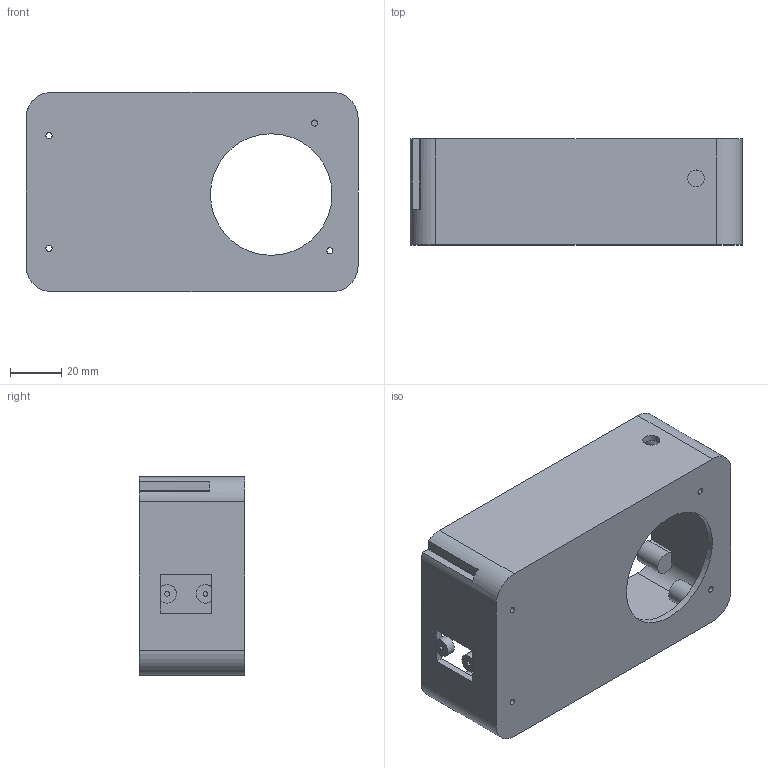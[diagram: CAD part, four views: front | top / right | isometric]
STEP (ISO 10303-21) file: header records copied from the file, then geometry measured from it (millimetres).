
FILE_DESCRIPTION(('Open CASCADE Model'),'2;1');
FILE_NAME('Open CASCADE Shape Model','2026-10-20T14:20:53',('Author'),( 'Open CASCADE'),'Open CASCADE STEP processor 7.8','Open CASCADE 7.8' ,'Unknown');
FILE_SCHEMA(('AUTOMOTIVE_DESIGN { 1 0 10303 214 1 1 1 1 }'));
Length unit declared in the file: millimetre
Products named in the file (1): Open CASCADE STEP translator 7.8 4
Bounding box: 130 x 41.5 x 78 mm (x, y, z)
Volume: 65876 mm3; surface area: 51179.2 mm2
Topology: 1 solids, 1 shells, 81 faces, 198 edges, 132 vertices
Faces by surface type: plane 47, cylinder 34
Full cylindrical faces by diameter (mm): 1.8 x10, 2.4 x4, 6.6 x1, 7.2 x2, 9 x4, 47.6 x1
Entity records: 4966 total; most frequent: CARTESIAN_POINT 924, DIRECTION 752, ORIENTED_EDGE 396, PCURVE 396, DEFINITIONAL_REPRESENTATION 396, LINE 354, VECTOR 354, EDGE_CURVE 198
